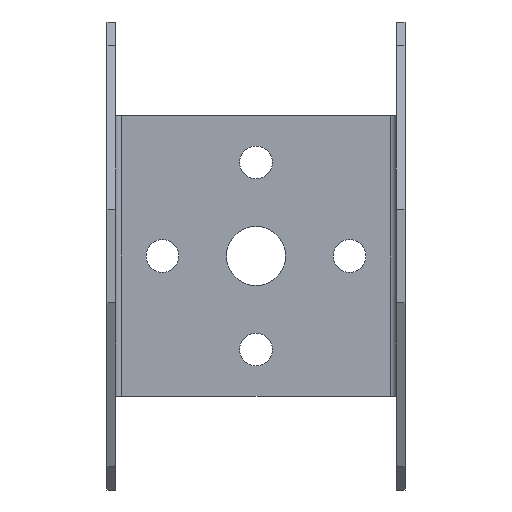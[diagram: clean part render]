
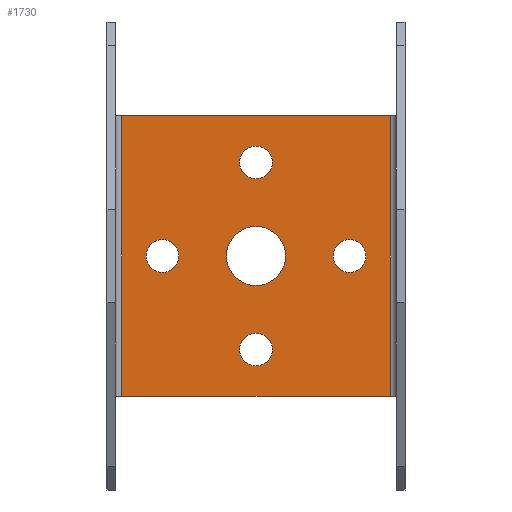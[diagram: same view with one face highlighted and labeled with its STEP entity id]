
A CAD part, front view. The second image highlights one B-rep face of the part: STEP entity #1730.
In plain terms, the highlighted planar face has unit normal (0, -1, 0).
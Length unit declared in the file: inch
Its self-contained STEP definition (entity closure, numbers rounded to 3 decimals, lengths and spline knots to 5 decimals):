
#605 = VERTEX_POINT ( 'NONE', #2853 ) ;
#617 = EDGE_CURVE ( 'NONE', #679, #618, #2968, .T. ) ;
#618 = VERTEX_POINT ( 'NONE', #2963 ) ;
#679 = VERTEX_POINT ( 'NONE', #3013 ) ;
#691 = VERTEX_POINT ( 'NONE', #3098 ) ;
#695 = VERTEX_POINT ( 'NONE', #3122 ) ;
#697 = EDGE_CURVE ( 'NONE', #695, #698, #3121, .T. ) ;
#698 = VERTEX_POINT ( 'NONE', #3116 ) ;
#700 = VERTEX_POINT ( 'NONE', #3005 ) ;
#703 = EDGE_CURVE ( 'NONE', #605, #704, #3029, .T. ) ;
#704 = VERTEX_POINT ( 'NONE', #3025 ) ;
#708 = EDGE_CURVE ( 'NONE', #691, #700, #3190, .T. ) ;
#769 = VERTEX_POINT ( 'NONE', #3069 ) ;
#772 = VERTEX_POINT ( 'NONE', #3068 ) ;
#776 = EDGE_CURVE ( 'NONE', #772, #769, #3210, .T. ) ;
#1697 = EDGE_CURVE ( 'NONE', #1765, #1772, #4650, .T. ) ;
#1730 = ADVANCED_FACE ( 'NONE', ( #4686, #4685, #4684, #4683, #4682, #4681 ), #4680, .F. ) ;
#1731 = EDGE_LOOP ( 'NONE', ( #1732, #1867 ) ) ;
#1732 = ORIENTED_EDGE ( 'NONE', *, *, #1733, .F. ) ;
#1733 = EDGE_CURVE ( 'NONE', #704, #605, #4675, .T. ) ;
#1734 = EDGE_LOOP ( 'NONE', ( #1868, #1870 ) ) ;
#1751 = ORIENTED_EDGE ( 'NONE', *, *, #1752, .F. ) ;
#1752 = EDGE_CURVE ( 'NONE', #618, #679, #4938, .T. ) ;
#1753 = ORIENTED_EDGE ( 'NONE', *, *, #617, .F. ) ;
#1754 = EDGE_LOOP ( 'NONE', ( #1755, #1757 ) ) ;
#1755 = ORIENTED_EDGE ( 'NONE', *, *, #1756, .F. ) ;
#1756 = EDGE_CURVE ( 'NONE', #698, #695, #4933, .T. ) ;
#1757 = ORIENTED_EDGE ( 'NONE', *, *, #697, .F. ) ;
#1758 = EDGE_LOOP ( 'NONE', ( #1759, #1761 ) ) ;
#1759 = ORIENTED_EDGE ( 'NONE', *, *, #1760, .F. ) ;
#1760 = EDGE_CURVE ( 'NONE', #769, #772, #4928, .T. ) ;
#1761 = ORIENTED_EDGE ( 'NONE', *, *, #776, .F. ) ;
#1762 = EDGE_LOOP ( 'NONE', ( #1763, #1767, #1770, #1773 ) ) ;
#1763 = ORIENTED_EDGE ( 'NONE', *, *, #1764, .T. ) ;
#1764 = EDGE_CURVE ( 'NONE', #1765, #1766, #4891, .T. ) ;
#1765 = VERTEX_POINT ( 'NONE', #4887 ) ;
#1766 = VERTEX_POINT ( 'NONE', #4886 ) ;
#1767 = ORIENTED_EDGE ( 'NONE', *, *, #1768, .F. ) ;
#1768 = EDGE_CURVE ( 'NONE', #1769, #1766, #4885, .T. ) ;
#1769 = VERTEX_POINT ( 'NONE', #4881 ) ;
#1770 = ORIENTED_EDGE ( 'NONE', *, *, #1771, .T. ) ;
#1771 = EDGE_CURVE ( 'NONE', #1769, #1772, #4880, .T. ) ;
#1772 = VERTEX_POINT ( 'NONE', #4876 ) ;
#1773 = ORIENTED_EDGE ( 'NONE', *, *, #1697, .F. ) ;
#1867 = ORIENTED_EDGE ( 'NONE', *, *, #703, .F. ) ;
#1868 = ORIENTED_EDGE ( 'NONE', *, *, #1869, .F. ) ;
#1869 = EDGE_CURVE ( 'NONE', #700, #691, #4804, .T. ) ;
#1870 = ORIENTED_EDGE ( 'NONE', *, *, #708, .F. ) ;
#1871 = EDGE_LOOP ( 'NONE', ( #1751, #1753 ) ) ;
#2853 = CARTESIAN_POINT ( 'NONE',  ( 0.5, 0., 0.0875 ) ) ;
#2963 = CARTESIAN_POINT ( 'NONE',  ( 0., 0., -0.5875 ) ) ;
#2964 = DIRECTION ( 'NONE',  ( 0., 0., -1. ) ) ;
#2965 = DIRECTION ( 'NONE',  ( 0., -1., 0. ) ) ;
#2966 = CARTESIAN_POINT ( 'NONE',  ( 0., 0., -0.5 ) ) ;
#2967 = AXIS2_PLACEMENT_3D ( 'NONE', #2966, #2965, #2964 ) ;
#2968 = CIRCLE ( 'NONE', #2967, 0.0875 ) ;
#2998 = CARTESIAN_POINT ( 'NONE',  ( 0.5, 0., 0. ) ) ;
#3005 = CARTESIAN_POINT ( 'NONE',  ( -0.5, 0., -0.0875 ) ) ;
#3013 = CARTESIAN_POINT ( 'NONE',  ( 0., 0., -0.4125 ) ) ;
#3020 = CARTESIAN_POINT ( 'NONE',  ( -0.5, 0., 0. ) ) ;
#3025 = CARTESIAN_POINT ( 'NONE',  ( 0.5, 0., -0.0875 ) ) ;
#3026 = DIRECTION ( 'NONE',  ( 0., 0., -1. ) ) ;
#3027 = DIRECTION ( 'NONE',  ( 0., -1., 0. ) ) ;
#3028 = AXIS2_PLACEMENT_3D ( 'NONE', #2998, #3027, #3026 ) ;
#3029 = CIRCLE ( 'NONE', #3028, 0.0875 ) ;
#3068 = CARTESIAN_POINT ( 'NONE',  ( 0., 0., 0.1575 ) ) ;
#3069 = CARTESIAN_POINT ( 'NONE',  ( 0., 0., -0.1575 ) ) ;
#3098 = CARTESIAN_POINT ( 'NONE',  ( -0.5, 0., 0.0875 ) ) ;
#3116 = CARTESIAN_POINT ( 'NONE',  ( 0., 0., 0.4125 ) ) ;
#3117 = DIRECTION ( 'NONE',  ( 0., 0., -1. ) ) ;
#3118 = DIRECTION ( 'NONE',  ( 0., -1., 0. ) ) ;
#3119 = CARTESIAN_POINT ( 'NONE',  ( 0., 0., 0.5 ) ) ;
#3120 = AXIS2_PLACEMENT_3D ( 'NONE', #3119, #3118, #3117 ) ;
#3121 = CIRCLE ( 'NONE', #3120, 0.0875 ) ;
#3122 = CARTESIAN_POINT ( 'NONE',  ( 0., 0., 0.5875 ) ) ;
#3187 = DIRECTION ( 'NONE',  ( 0., 0., -1. ) ) ;
#3188 = DIRECTION ( 'NONE',  ( 0., -1., 0. ) ) ;
#3189 = AXIS2_PLACEMENT_3D ( 'NONE', #3020, #3188, #3187 ) ;
#3190 = CIRCLE ( 'NONE', #3189, 0.0875 ) ;
#3206 = DIRECTION ( 'NONE',  ( 0., 0., -1. ) ) ;
#3207 = DIRECTION ( 'NONE',  ( 0., -1., 0. ) ) ;
#3208 = CARTESIAN_POINT ( 'NONE',  ( 0., 0., 0. ) ) ;
#3209 = AXIS2_PLACEMENT_3D ( 'NONE', #3208, #3207, #3206 ) ;
#3210 = CIRCLE ( 'NONE', #3209, 0.1575 ) ;
#4647 = DIRECTION ( 'NONE',  ( 0., 0., 1. ) ) ;
#4648 = VECTOR ( 'NONE', #4647, 39.37008 ) ;
#4649 = CARTESIAN_POINT ( 'NONE',  ( -0.718, 0., -1.25 ) ) ;
#4650 = LINE ( 'NONE', #4649, #4648 ) ;
#4671 = DIRECTION ( 'NONE',  ( 0., 0., -1. ) ) ;
#4672 = DIRECTION ( 'NONE',  ( 0., -1., 0. ) ) ;
#4673 = CARTESIAN_POINT ( 'NONE',  ( 0.5, 0., 0. ) ) ;
#4674 = AXIS2_PLACEMENT_3D ( 'NONE', #4673, #4672, #4671 ) ;
#4675 = CIRCLE ( 'NONE', #4674, 0.0875 ) ;
#4676 = DIRECTION ( 'NONE',  ( 0., 0., 1. ) ) ;
#4677 = DIRECTION ( 'NONE',  ( 0., 1., 0. ) ) ;
#4678 = CARTESIAN_POINT ( 'NONE',  ( -0.75, 0., 1.25 ) ) ;
#4679 = AXIS2_PLACEMENT_3D ( 'NONE', #4678, #4677, #4676 ) ;
#4680 = PLANE ( 'NONE',  #4679 ) ;
#4681 = FACE_OUTER_BOUND ( 'NONE', #1762, .T. ) ;
#4682 = FACE_BOUND ( 'NONE', #1758, .T. ) ;
#4683 = FACE_BOUND ( 'NONE', #1754, .T. ) ;
#4684 = FACE_BOUND ( 'NONE', #1871, .T. ) ;
#4685 = FACE_BOUND ( 'NONE', #1734, .T. ) ;
#4686 = FACE_BOUND ( 'NONE', #1731, .T. ) ;
#4800 = DIRECTION ( 'NONE',  ( 0., 0., -1. ) ) ;
#4801 = DIRECTION ( 'NONE',  ( 0., -1., 0. ) ) ;
#4802 = CARTESIAN_POINT ( 'NONE',  ( -0.5, 0., 0. ) ) ;
#4803 = AXIS2_PLACEMENT_3D ( 'NONE', #4802, #4801, #4800 ) ;
#4804 = CIRCLE ( 'NONE', #4803, 0.0875 ) ;
#4876 = CARTESIAN_POINT ( 'NONE',  ( -0.718, 0., 0.75 ) ) ;
#4877 = DIRECTION ( 'NONE',  ( -1., 0., 0. ) ) ;
#4878 = VECTOR ( 'NONE', #4877, 39.37008 ) ;
#4879 = CARTESIAN_POINT ( 'NONE',  ( -0.75, 0., 0.75 ) ) ;
#4880 = LINE ( 'NONE', #4879, #4878 ) ;
#4881 = CARTESIAN_POINT ( 'NONE',  ( 0.718, 0., 0.75 ) ) ;
#4882 = DIRECTION ( 'NONE',  ( 0., 0., -1. ) ) ;
#4883 = VECTOR ( 'NONE', #4882, 39.37008 ) ;
#4884 = CARTESIAN_POINT ( 'NONE',  ( 0.718, 0., 1.25 ) ) ;
#4885 = LINE ( 'NONE', #4884, #4883 ) ;
#4886 = CARTESIAN_POINT ( 'NONE',  ( 0.718, 0., -0.75 ) ) ;
#4887 = CARTESIAN_POINT ( 'NONE',  ( -0.718, 0., -0.75 ) ) ;
#4888 = DIRECTION ( 'NONE',  ( 1., 0., 0. ) ) ;
#4889 = VECTOR ( 'NONE', #4888, 39.37008 ) ;
#4890 = CARTESIAN_POINT ( 'NONE',  ( -0.75, 0., -0.75 ) ) ;
#4891 = LINE ( 'NONE', #4890, #4889 ) ;
#4892 = DIRECTION ( 'NONE',  ( 0., 0., -1. ) ) ;
#4893 = DIRECTION ( 'NONE',  ( 0., -1., 0. ) ) ;
#4894 = CARTESIAN_POINT ( 'NONE',  ( 0., 0., 0. ) ) ;
#4927 = AXIS2_PLACEMENT_3D ( 'NONE', #4894, #4893, #4892 ) ;
#4928 = CIRCLE ( 'NONE', #4927, 0.1575 ) ;
#4929 = DIRECTION ( 'NONE',  ( 0., 0., -1. ) ) ;
#4930 = DIRECTION ( 'NONE',  ( 0., -1., 0. ) ) ;
#4931 = CARTESIAN_POINT ( 'NONE',  ( 0., 0., 0.5 ) ) ;
#4932 = AXIS2_PLACEMENT_3D ( 'NONE', #4931, #4930, #4929 ) ;
#4933 = CIRCLE ( 'NONE', #4932, 0.0875 ) ;
#4934 = DIRECTION ( 'NONE',  ( 0., 0., -1. ) ) ;
#4935 = DIRECTION ( 'NONE',  ( 0., -1., 0. ) ) ;
#4936 = CARTESIAN_POINT ( 'NONE',  ( 0., 0., -0.5 ) ) ;
#4937 = AXIS2_PLACEMENT_3D ( 'NONE', #4936, #4935, #4934 ) ;
#4938 = CIRCLE ( 'NONE', #4937, 0.0875 ) ;
